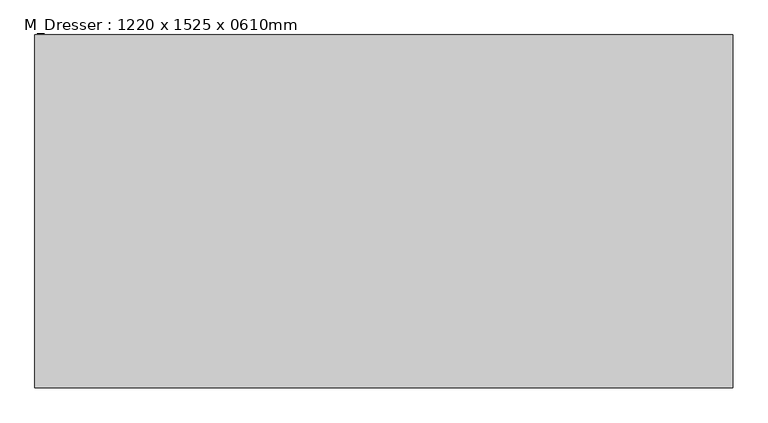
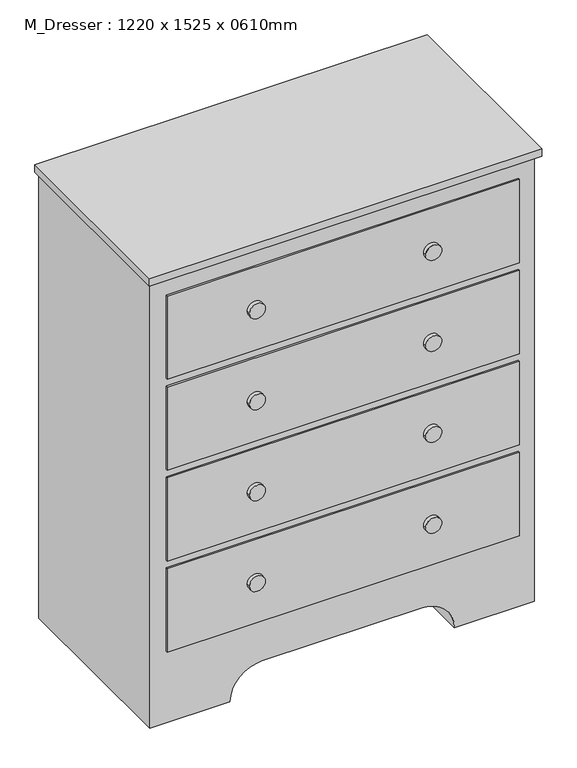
"""IFC4 building model written with IfcOpenShell, lengths in millimetres: furniture geometry, M_Dresser : 1220 x 1525 x 0610mm."""

from ifc_helpers import new_model, si_unit, point, frame, frame_2d, origin, place, context, project, spatial, polyline, circle_curve, trimmed, segment, composite_curve, outline, extrude, source, transform, mapped, element, save


def m_dresser_1220_x_1525_x_0610mm_18e1f140(model_context):
    return source(origin(), model_context, "Body", "SweptSolid", [
        extrude(outline(polyline([(353.5067402, -58.1629541), (353.5067402, -687.2129541), (-891.8932598, -687.2129541), (-891.8932598, -58.1629541), (353.5067402, -58.1629541)])), frame((0.0, 0.0, 1499.6), z_axis=(0.0, 0.0, 1.0), x_axis=(1.0, 0.0, 0.0)), (0.0, 0.0, 1.0), 25.4),
        extrude(outline(composite_curve([segment(polyline([(0.0, 340.8067402), (1499.6, 340.8067402), (1499.6, -879.1932598), (0.0, -879.1932598), (0.0, -625.1932598)]), True, "CONTINUOUS"), segment(trimmed(circle_curve(frame_2d((0.0, -523.5932598)), 101.6), [point((0.0, -625.1932598))], [point((101.6, -523.5932598))], True, "CARTESIAN"), True, "CONTINUOUS"), segment(polyline([(101.6, -523.5932598), (101.6, -14.7932598)]), True, "CONTINUOUS"), segment(trimmed(circle_curve(frame_2d((0.0, -14.7932598)), 101.6), [point((101.6, -14.7932598))], [point((0.0, 86.8067402))], True, "CARTESIAN"), True, "CONTINUOUS"), segment(polyline([(0.0, 86.8067402), (0.0, 340.8067402)]), True, "CONTINUOUS")], self_intersect=False)), frame((0.0, -668.1629541, 0.0), z_axis=(0.0, 1.0, 0.0), x_axis=(0.0, 0.0, 1.0)), (0.0, 0.0, 1.0), 610.0),
        extrude(outline(composite_curve([segment(trimmed(circle_curve(frame_2d((1296.275, 10.4067402)), 25.4), [point((1296.275, -14.9932598))], [point((1296.275, 35.8067402))], False, "CARTESIAN"), True, "CONTINUOUS"), segment(trimmed(circle_curve(frame_2d((1296.275, 10.4067402)), 25.4), [point((1296.275, 35.8067402))], [point((1296.275, -14.9932598))], False, "CARTESIAN"), True, "CONTINUOUS")], self_intersect=False)), frame((0.0, -687.2129541, 0.0), z_axis=(0.0, 1.0, 0.0), x_axis=(0.0, 0.0, 1.0)), (0.0, 0.0, 1.0), 12.7),
        extrude(outline(composite_curve([segment(trimmed(circle_curve(frame_2d((991.225, 10.4067402)), 25.4), [point((991.225, -14.9932598))], [point((991.225, 35.8067402))], False, "CARTESIAN"), True, "CONTINUOUS"), segment(trimmed(circle_curve(frame_2d((991.225, 10.4067402)), 25.4), [point((991.225, 35.8067402))], [point((991.225, -14.9932598))], False, "CARTESIAN"), True, "CONTINUOUS")], self_intersect=False)), frame((0.0, -687.2129541, 0.0), z_axis=(0.0, 1.0, 0.0), x_axis=(0.0, 0.0, 1.0)), (0.0, 0.0, 1.0), 12.7),
        extrude(outline(composite_curve([segment(trimmed(circle_curve(frame_2d((686.175, 10.4067402)), 25.4), [point((686.175, -14.9932598))], [point((686.175, 35.8067402))], False, "CARTESIAN"), True, "CONTINUOUS"), segment(trimmed(circle_curve(frame_2d((686.175, 10.4067402)), 25.4), [point((686.175, 35.8067402))], [point((686.175, -14.9932598))], False, "CARTESIAN"), True, "CONTINUOUS")], self_intersect=False)), frame((0.0, -687.2129541, 0.0), z_axis=(0.0, 1.0, 0.0), x_axis=(0.0, 0.0, 1.0)), (0.0, 0.0, 1.0), 12.7),
        extrude(outline(composite_curve([segment(trimmed(circle_curve(frame_2d((381.125, 10.4067402)), 25.4), [point((381.125, -14.9932598))], [point((381.125, 35.8067402))], False, "CARTESIAN"), True, "CONTINUOUS"), segment(trimmed(circle_curve(frame_2d((381.125, 10.4067402)), 25.4), [point((381.125, 35.8067402))], [point((381.125, -14.9932598))], False, "CARTESIAN"), True, "CONTINUOUS")], self_intersect=False)), frame((0.0, -687.2129541, 0.0), z_axis=(0.0, 1.0, 0.0), x_axis=(0.0, 0.0, 1.0)), (0.0, 0.0, 1.0), 12.7),
        extrude(outline(composite_curve([segment(trimmed(circle_curve(frame_2d((381.125, -548.7932598)), 25.4), [point((381.125, -574.1932598))], [point((381.125, -523.3932598))], False, "CARTESIAN"), True, "CONTINUOUS"), segment(trimmed(circle_curve(frame_2d((381.125, -548.7932598)), 25.4), [point((381.125, -523.3932598))], [point((381.125, -574.1932598))], False, "CARTESIAN"), True, "CONTINUOUS")], self_intersect=False)), frame((0.0, -687.2129541, 0.0), z_axis=(0.0, 1.0, 0.0), x_axis=(0.0, 0.0, 1.0)), (0.0, 0.0, 1.0), 12.7),
        extrude(outline(composite_curve([segment(trimmed(circle_curve(frame_2d((686.175, -548.7932598)), 25.4), [point((686.175, -574.1932598))], [point((686.175, -523.3932598))], False, "CARTESIAN"), True, "CONTINUOUS"), segment(trimmed(circle_curve(frame_2d((686.175, -548.7932598)), 25.4), [point((686.175, -523.3932598))], [point((686.175, -574.1932598))], False, "CARTESIAN"), True, "CONTINUOUS")], self_intersect=False)), frame((0.0, -687.2129541, 0.0), z_axis=(0.0, 1.0, 0.0), x_axis=(0.0, 0.0, 1.0)), (0.0, 0.0, 1.0), 12.7),
        extrude(outline(composite_curve([segment(trimmed(circle_curve(frame_2d((991.225, -548.7932598)), 25.4), [point((991.225, -574.1932598))], [point((991.225, -523.3932598))], False, "CARTESIAN"), True, "CONTINUOUS"), segment(trimmed(circle_curve(frame_2d((991.225, -548.7932598)), 25.4), [point((991.225, -523.3932598))], [point((991.225, -574.1932598))], False, "CARTESIAN"), True, "CONTINUOUS")], self_intersect=False)), frame((0.0, -687.2129541, 0.0), z_axis=(0.0, 1.0, 0.0), x_axis=(0.0, 0.0, 1.0)), (0.0, 0.0, 1.0), 12.7),
        extrude(outline(composite_curve([segment(trimmed(circle_curve(frame_2d((1296.275, -548.7932598)), 25.4), [point((1296.275, -574.1932598))], [point((1296.275, -523.3932598))], False, "CARTESIAN"), True, "CONTINUOUS"), segment(trimmed(circle_curve(frame_2d((1296.275, -548.7932598)), 25.4), [point((1296.275, -523.3932598))], [point((1296.275, -574.1932598))], False, "CARTESIAN"), True, "CONTINUOUS")], self_intersect=False)), frame((0.0, -687.2129541, 0.0), z_axis=(0.0, 1.0, 0.0), x_axis=(0.0, 0.0, 1.0)), (0.0, 0.0, 1.0), 12.7),
        extrude(outline(polyline([(290.0067402, -674.5129541), (-828.3932598, -674.5129541), (-828.3932598, -668.1629541), (290.0067402, -668.1629541), (290.0067402, -674.5129541)])), frame((0.0, 0.0, 1156.45), z_axis=(0.0, 0.0, 1.0), x_axis=(1.0, 0.0, 0.0)), (0.0, 0.0, 1.0), 279.65),
        extrude(outline(polyline([(290.0067402, -674.5129541), (-828.3932598, -674.5129541), (-828.3932598, -668.1629541), (290.0067402, -668.1629541), (290.0067402, -674.5129541)])), frame((0.0, 0.0, 851.4), z_axis=(0.0, 0.0, 1.0), x_axis=(1.0, 0.0, 0.0)), (0.0, 0.0, 1.0), 279.65),
        extrude(outline(polyline([(290.0067402, -674.5129541), (-828.3932598, -674.5129541), (-828.3932598, -668.1629541), (290.0067402, -668.1629541), (290.0067402, -674.5129541)])), frame((0.0, 0.0, 546.35), z_axis=(0.0, 0.0, 1.0), x_axis=(1.0, 0.0, 0.0)), (0.0, 0.0, 1.0), 279.65),
        extrude(outline(polyline([(290.0067402, -674.5129541), (-828.3932598, -674.5129541), (-828.3932598, -668.1629541), (290.0067402, -668.1629541), (290.0067402, -674.5129541)])), frame((0.0, 0.0, 241.3), z_axis=(0.0, 0.0, 1.0), x_axis=(1.0, 0.0, 0.0)), (0.0, 0.0, 1.0), 279.65),
    ])


if __name__ == "__main__":
    model = new_model("IFC4")
    model_context = context("Model", 3, world=origin())
    ifc_project = project(units=[si_unit("LENGTHUNIT", "METRE", prefix="MILLI")], contexts=[model_context])
    site = spatial("IfcSite", under=ifc_project)
    building = spatial("IfcBuilding", under=site)
    placement = place(None, origin())
    m_dresser_1220_x_1525_x_0610mm_shape = m_dresser_1220_x_1525_x_0610mm_18e1f140(model_context)
    element("IfcFurniture", 1, ObjectType="M_Dresser : 1220 x 1525 x 0610mm", at=placement, inside=building, context=model_context, shape_type="MappedRepresentation", body=[
        mapped(m_dresser_1220_x_1525_x_0610mm_shape, transform((0.0, 0.0, 0.0), x_axis=(1.0, 0.0, 0.0), y_axis=(0.0, 1.0, 0.0), z_axis=(0.0, 0.0, 1.0))),
    ])
    save(model, "model.ifc")
